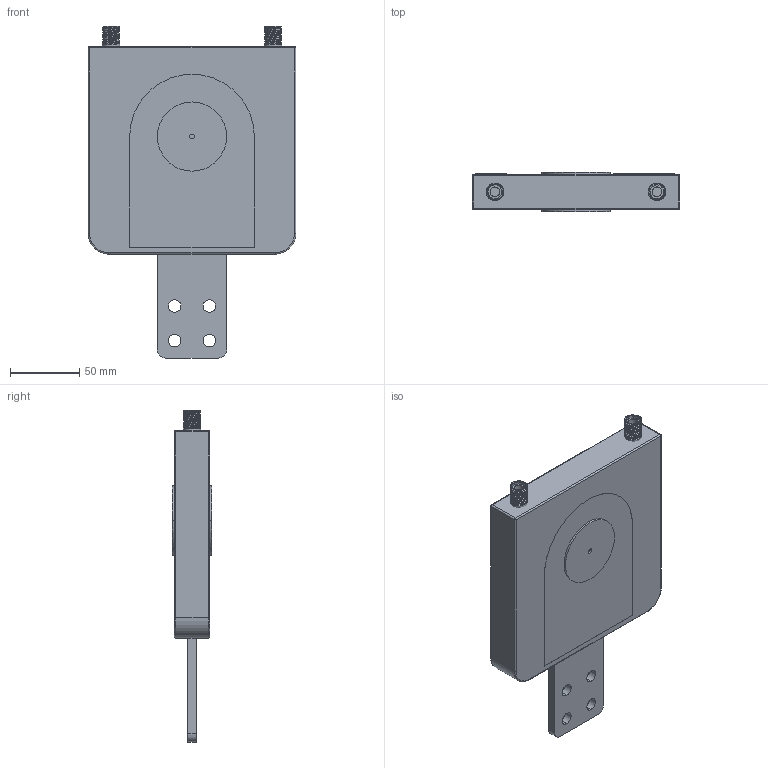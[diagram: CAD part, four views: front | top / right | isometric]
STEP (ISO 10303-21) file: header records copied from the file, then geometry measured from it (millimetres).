
FILE_DESCRIPTION (( 'STEP AP214' ), '1' );
FILE_NAME ('任芲50.STEP', '2025-08-06T15:52:03', ( '' ), ( '' ), 'SwSTEP 2.0', 'SolidWorks 2024', '' );
FILE_SCHEMA (( 'AUTOMOTIVE_DESIGN' ));
Length unit declared in the file: millimetre
Products named in the file (11): нагреватель; корпус; керамика; ИОЖ_50; пластик; крышка верхняя; крышка нижняя; кастомный_ниппель; ИОЖлого (1); шина; ЛИРАC (1)
Assembly tree (13 placements, depth 2):
  ИОЖ_50
    корпус
    керамика  x2
    нагреватель  x2
    шина
    пластик
    ИОЖлого (1)
    ЛИРАC (1)
    кастомный_ниппель  x2
    крышка верхняя
    крышка нижняя
Bounding box: 150 x 28.5 x 239.85 mm (x, y, z)
Volume: 863989.3 mm3; surface area: 320583.1 mm2
Topology: 13 solids, 13 shells, 1111 faces, 2958 edges, 1914 vertices
Faces by surface type: plane 573, cylinder 488, cone 20, torus 20, bspline 6, sphere 4
Entity records: 35651 total; most frequent: CARTESIAN_POINT 8395, DIRECTION 5781, ORIENTED_EDGE 5602, EDGE_CURVE 2801, AXIS2_PLACEMENT_3D 1987, VERTEX_POINT 1813, VECTOR 1807, LINE 1807
